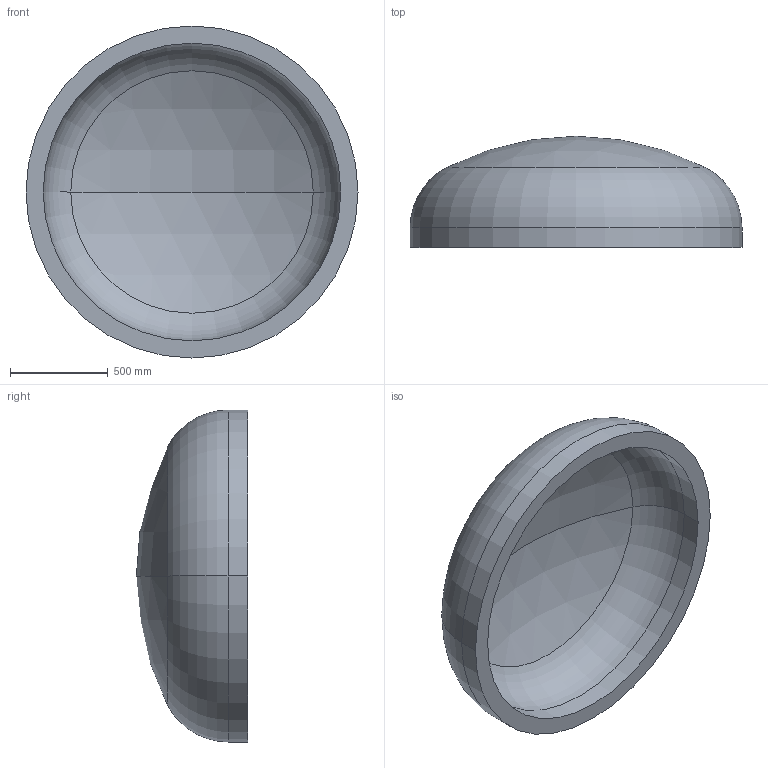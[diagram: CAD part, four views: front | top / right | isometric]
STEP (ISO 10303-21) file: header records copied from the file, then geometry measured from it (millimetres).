
FILE_DESCRIPTION (( 'STEP AP203' ), '1' );
FILE_NAME ('DIN 28013 Korbbogenform_-_Boden DIN 28013 - 1700 x 100 - I - s=88.step', '2016-07-01T12:05:02', ( '' ), ( '' ), 'SwSTEP 2.0', 'SolidWorks 2013', '' );
FILE_SCHEMA (( 'CONFIG_CONTROL_DESIGN' ));
Length unit declared in the file: millimetre
Products named in the file (1): DIN 28013 Korbbogenform_-_Boden DIN 28013 - 1700 x 100 - I - s=88
Bounding box: 1700 x 569.23 x 1700 mm (x, y, z)
Volume: 303062207.3 mm3; surface area: 7349648.4 mm2
Topology: 1 solids, 1 shells, 13 faces, 24 edges, 14 vertices
Faces by surface type: torus 4, cylinder 4, sphere 4, plane 1
Entity records: 407 total; most frequent: DIRECTION 72, CARTESIAN_POINT 52, ORIENTED_EDGE 48, AXIS2_PLACEMENT_3D 34, EDGE_CURVE 24, CIRCLE 20, EDGE_LOOP 14, VERTEX_POINT 14
